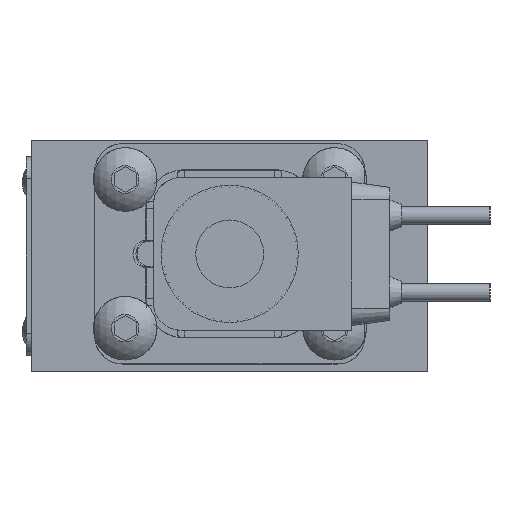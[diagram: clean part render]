
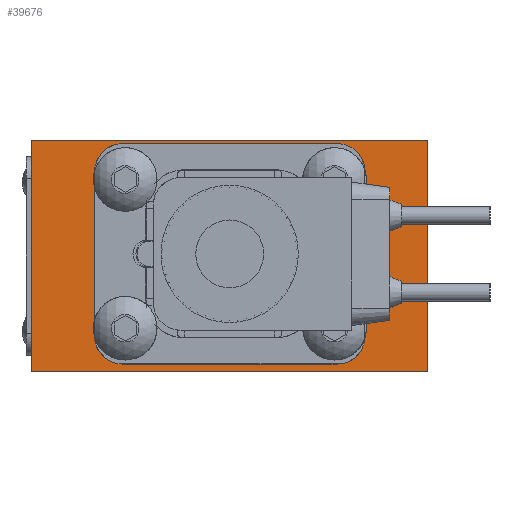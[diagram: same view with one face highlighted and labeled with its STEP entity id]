
A CAD part, left-side view. The second image highlights one B-rep face of the part: STEP entity #39676.
In plain terms, the highlighted planar face has unit normal (-1, 0, 0).
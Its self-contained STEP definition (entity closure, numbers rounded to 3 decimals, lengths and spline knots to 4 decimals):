
#391=FACE_BOUND('',#6330,.T.);
#1655=CIRCLE('',#42279,0.3969);
#1657=CIRCLE('',#42283,0.3969);
#1659=CIRCLE('',#42287,0.3969);
#1661=CIRCLE('',#42291,0.3969);
#4072=FACE_OUTER_BOUND('',#6329,.T.);
#6329=EDGE_LOOP('',(#26173,#26174,#26175,#26176));
#6330=EDGE_LOOP('',(#26177,#26178,#26179,#26180,#26181,#26182,#26183,#26184));
#8906=LINE('',#59932,#11799);
#8911=LINE('',#59945,#11804);
#8915=LINE('',#59957,#11808);
#8919=LINE('',#59969,#11812);
#8924=LINE('',#59996,#11817);
#8925=LINE('',#59998,#11818);
#8926=LINE('',#60000,#11819);
#8927=LINE('',#60001,#11820);
#11799=VECTOR('',#47723,1.);
#11804=VECTOR('',#47736,1.);
#11808=VECTOR('',#47748,1.);
#11812=VECTOR('',#47760,1.);
#11817=VECTOR('',#47789,1.);
#11818=VECTOR('',#47790,1.);
#11819=VECTOR('',#47791,1.);
#11820=VECTOR('',#47792,1.);
#15510=VERTEX_POINT('',#59929);
#15511=VERTEX_POINT('',#59931);
#15513=VERTEX_POINT('',#59937);
#15515=VERTEX_POINT('',#59943);
#15517=VERTEX_POINT('',#59949);
#15519=VERTEX_POINT('',#59955);
#15521=VERTEX_POINT('',#59961);
#15523=VERTEX_POINT('',#59967);
#15532=VERTEX_POINT('',#59994);
#15533=VERTEX_POINT('',#59995);
#15534=VERTEX_POINT('',#59997);
#15535=VERTEX_POINT('',#59999);
#19583=EDGE_CURVE('',#15511,#15510,#8906,.T.);
#19587=EDGE_CURVE('',#15510,#15513,#1655,.T.);
#19590=EDGE_CURVE('',#15513,#15515,#8911,.T.);
#19593=EDGE_CURVE('',#15515,#15517,#1657,.T.);
#19596=EDGE_CURVE('',#15517,#15519,#8915,.T.);
#19599=EDGE_CURVE('',#15519,#15521,#1659,.T.);
#19602=EDGE_CURVE('',#15521,#15523,#8919,.T.);
#19604=EDGE_CURVE('',#15523,#15511,#1661,.T.);
#19614=EDGE_CURVE('',#15532,#15533,#8924,.T.);
#19615=EDGE_CURVE('',#15533,#15534,#8925,.T.);
#19616=EDGE_CURVE('',#15534,#15535,#8926,.T.);
#19617=EDGE_CURVE('',#15535,#15532,#8927,.T.);
#26173=ORIENTED_EDGE('',*,*,#19614,.T.);
#26174=ORIENTED_EDGE('',*,*,#19615,.T.);
#26175=ORIENTED_EDGE('',*,*,#19616,.T.);
#26176=ORIENTED_EDGE('',*,*,#19617,.T.);
#26177=ORIENTED_EDGE('',*,*,#19583,.T.);
#26178=ORIENTED_EDGE('',*,*,#19587,.T.);
#26179=ORIENTED_EDGE('',*,*,#19590,.T.);
#26180=ORIENTED_EDGE('',*,*,#19593,.T.);
#26181=ORIENTED_EDGE('',*,*,#19596,.T.);
#26182=ORIENTED_EDGE('',*,*,#19599,.T.);
#26183=ORIENTED_EDGE('',*,*,#19602,.T.);
#26184=ORIENTED_EDGE('',*,*,#19604,.T.);
#36477=PLANE('',#42300);
#39676=ADVANCED_FACE('',(#4072,#391),#36477,.T.);
#42279=AXIS2_PLACEMENT_3D('',#59939,#47730,#47731);
#42283=AXIS2_PLACEMENT_3D('',#59951,#47742,#47743);
#42287=AXIS2_PLACEMENT_3D('',#59963,#47754,#47755);
#42291=AXIS2_PLACEMENT_3D('',#59972,#47765,#47766);
#42300=AXIS2_PLACEMENT_3D('',#59993,#47787,#47788);
#47723=DIRECTION('',(0.,1.,0.));
#47730=DIRECTION('center_axis',(1.,0.,0.));
#47731=DIRECTION('ref_axis',(0.,-1.,0.));
#47736=DIRECTION('',(0.,0.,1.));
#47742=DIRECTION('center_axis',(1.,0.,0.));
#47743=DIRECTION('ref_axis',(0.,0.,
-1.));
#47748=DIRECTION('',(0.,-1.,0.));
#47754=DIRECTION('center_axis',(1.,0.,0.));
#47755=DIRECTION('ref_axis',(0.,1.,0.));
#47760=DIRECTION('',(0.,0.,-1.));
#47765=DIRECTION('center_axis',(1.,0.,0.));
#47766=DIRECTION('ref_axis',(0.,0.,
1.));
#47787=DIRECTION('center_axis',(-1.,0.,0.));
#47788=DIRECTION('ref_axis',(0.,0.,1.));
#47789=DIRECTION('',(0.,1.,0.));
#47790=DIRECTION('',(0.,0.,-1.));
#47791=DIRECTION('',(0.,-1.,0.));
#47792=DIRECTION('',(0.,0.,1.));
#59929=CARTESIAN_POINT('',(-4.7117,1.5478,-1.557));
#59931=CARTESIAN_POINT('',(-4.7117,-1.5478,-1.557));
#59932=CARTESIAN_POINT('',(-4.7117,-2.2027,-1.557));
#59937=CARTESIAN_POINT('',(-4.7117,1.9447,-1.1601));
#59939=CARTESIAN_POINT('Origin',(-4.7117,1.5478,-1.1601));
#59943=CARTESIAN_POINT('',(-4.7117,1.9447,1.2211));
#59945=CARTESIAN_POINT('',(-4.7117,1.9447,-0.5801));
#59949=CARTESIAN_POINT('',(-4.7117,1.5478,1.618));
#59951=CARTESIAN_POINT('Origin',(-4.7117,1.5478,1.2211));
#59955=CARTESIAN_POINT('',(-4.7117,-1.5478,1.618));
#59957=CARTESIAN_POINT('',(-4.7117,-0.6548,1.618));
#59961=CARTESIAN_POINT('',(-4.7117,-1.9447,1.2211));
#59963=CARTESIAN_POINT('Origin',(-4.7117,-1.5478,1.2211));
#59967=CARTESIAN_POINT('',(-4.7117,-1.9447,-1.1601));
#59969=CARTESIAN_POINT('',(-4.7117,-1.9447,0.6106));
#59972=CARTESIAN_POINT('Origin',(-4.7117,-1.5478,-1.1601));
#59993=CARTESIAN_POINT('Origin',(-4.7117,-2.8575,0.));
#59994=CARTESIAN_POINT('',(-4.7117,-2.8575,1.6662));
#59995=CARTESIAN_POINT('',(-4.7117,2.8575,1.6662));
#59996=CARTESIAN_POINT('',(-4.7117,-2.8575,1.6662));
#59997=CARTESIAN_POINT('',(-4.7117,2.8575,-1.6662));
#59998=CARTESIAN_POINT('',(-4.7117,2.8575,0.));
#59999=CARTESIAN_POINT('',(-4.7117,-2.8575,-1.6662));
#60000=CARTESIAN_POINT('',(-4.7117,-2.8575,-1.6662));
#60001=CARTESIAN_POINT('',(-4.7117,-2.8575,0.));
